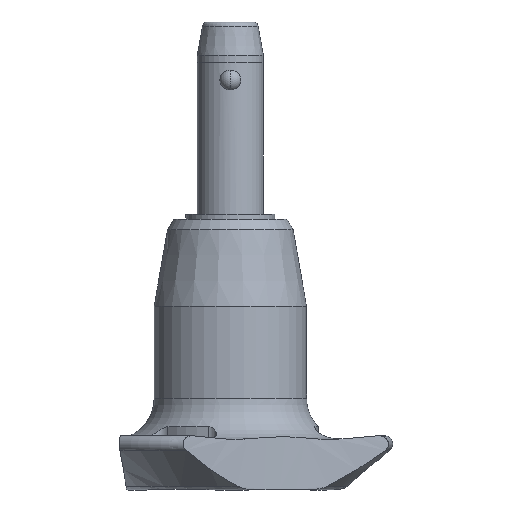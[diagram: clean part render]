
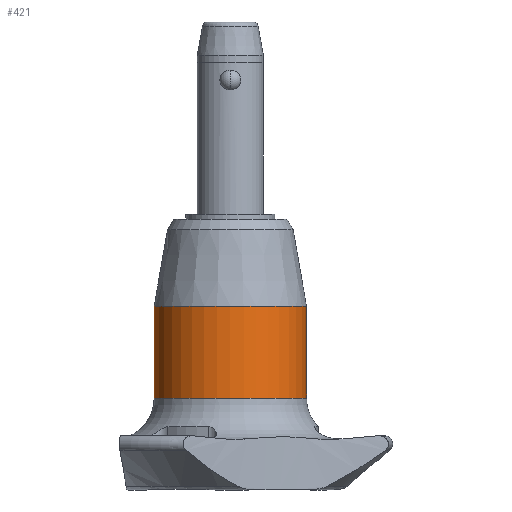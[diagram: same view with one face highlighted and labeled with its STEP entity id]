
A CAD part, front view. The second image highlights one B-rep face of the part: STEP entity #421.
In plain terms, the highlighted cylindrical face has radius 9.2 mm (diameter 18.4 mm), a partial arc.
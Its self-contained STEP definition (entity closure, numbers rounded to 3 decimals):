
#2 = DIRECTION ( 'NONE',  ( -1., 0., 0. ) ) ;
#69 = AXIS2_PLACEMENT_3D ( 'NONE', #1183, #104, #1240 ) ;
#104 = DIRECTION ( 'NONE',  ( 0., 0., -1. ) ) ;
#225 = CIRCLE ( 'NONE', #1125, 9.2 ) ;
#317 = EDGE_LOOP ( 'NONE', ( #1106, #1719, #562, #1304 ) ) ;
#324 = CYLINDRICAL_SURFACE ( 'NONE', #69, 9.2 ) ;
#421 = ADVANCED_FACE ( 'NONE', ( #2260 ), #324, .T. ) ;
#436 = VECTOR ( 'NONE', #589, 1000. ) ;
#562 = ORIENTED_EDGE ( 'NONE', *, *, #614, .T. ) ;
#589 = DIRECTION ( 'NONE',  ( 0., 0., -1. ) ) ;
#614 = EDGE_CURVE ( 'NONE', #1321, #1933, #760, .T. ) ;
#689 = EDGE_CURVE ( 'NONE', #2669, #1810, #1414, .T. ) ;
#760 = LINE ( 'NONE', #2469, #2334 ) ;
#800 = CARTESIAN_POINT ( 'NONE',  ( 9.2, 0., -37.2 ) ) ;
#998 = DIRECTION ( 'NONE',  ( 0., 0., -1. ) ) ;
#1029 = CARTESIAN_POINT ( 'NONE',  ( -9.2, 0., -37.2 ) ) ;
#1071 = CARTESIAN_POINT ( 'NONE',  ( 0., 0., -37.2 ) ) ;
#1106 = ORIENTED_EDGE ( 'NONE', *, *, #689, .F. ) ;
#1114 = DIRECTION ( 'NONE',  ( 0., 0., -1. ) ) ;
#1125 = AXIS2_PLACEMENT_3D ( 'NONE', #1071, #1718, #2 ) ;
#1128 = CARTESIAN_POINT ( 'NONE',  ( 0., 0., -26.1 ) ) ;
#1183 = CARTESIAN_POINT ( 'NONE',  ( 0., 0., -37.2 ) ) ;
#1240 = DIRECTION ( 'NONE',  ( -1., 0., 0. ) ) ;
#1304 = ORIENTED_EDGE ( 'NONE', *, *, #2452, .F. ) ;
#1321 = VERTEX_POINT ( 'NONE', #2464 ) ;
#1343 = AXIS2_PLACEMENT_3D ( 'NONE', #1128, #1114, #2232 ) ;
#1414 = LINE ( 'NONE', #800, #436 ) ;
#1718 = DIRECTION ( 'NONE',  ( 0., 0., -1. ) ) ;
#1719 = ORIENTED_EDGE ( 'NONE', *, *, #2237, .T. ) ;
#1768 = CARTESIAN_POINT ( 'NONE',  ( 9.2, 0., -26.1 ) ) ;
#1810 = VERTEX_POINT ( 'NONE', #1912 ) ;
#1912 = CARTESIAN_POINT ( 'NONE',  ( 9.2, 0., -37.2 ) ) ;
#1933 = VERTEX_POINT ( 'NONE', #1029 ) ;
#2202 = CIRCLE ( 'NONE', #1343, 9.2 ) ;
#2232 = DIRECTION ( 'NONE',  ( -1., 0., 0. ) ) ;
#2237 = EDGE_CURVE ( 'NONE', #2669, #1321, #2202, .T. ) ;
#2260 = FACE_OUTER_BOUND ( 'NONE', #317, .T. ) ;
#2334 = VECTOR ( 'NONE', #998, 1000. ) ;
#2452 = EDGE_CURVE ( 'NONE', #1810, #1933, #225, .T. ) ;
#2464 = CARTESIAN_POINT ( 'NONE',  ( -9.2, 0., -26.1 ) ) ;
#2469 = CARTESIAN_POINT ( 'NONE',  ( -9.2, 0., -37.2 ) ) ;
#2669 = VERTEX_POINT ( 'NONE', #1768 ) ;
